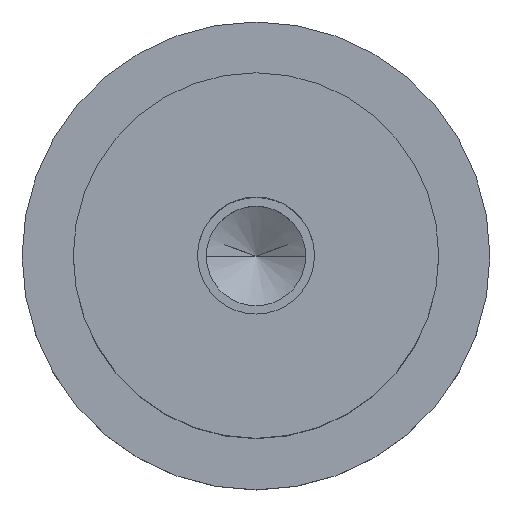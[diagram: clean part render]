
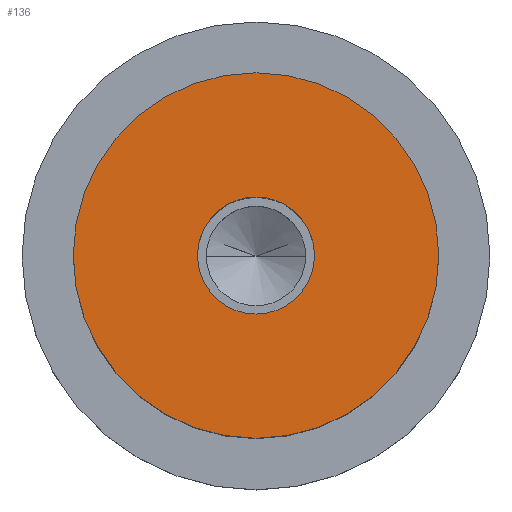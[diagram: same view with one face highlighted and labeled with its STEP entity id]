
A CAD part, top view. The second image highlights one B-rep face of the part: STEP entity #136.
In plain terms, the highlighted planar face has unit normal (0, 0, 1).
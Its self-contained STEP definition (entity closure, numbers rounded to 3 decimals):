
#100=PLANE('',#450);
#107=FACE_BOUND('',#182,.T.);
#108=FACE_BOUND('',#183,.T.);
#136=ADVANCED_FACE('',(#107,#108),#100,.T.);
#182=EDGE_LOOP('',(#259,#260));
#183=EDGE_LOOP('',(#261,#262));
#209=CIRCLE('',#444,4.);
#210=CIRCLE('',#446,4.);
#211=CIRCLE('',#448,12.5);
#212=CIRCLE('',#449,12.5);
#259=ORIENTED_EDGE('',*,*,#368,.F.);
#260=ORIENTED_EDGE('',*,*,#369,.F.);
#261=ORIENTED_EDGE('',*,*,#367,.T.);
#262=ORIENTED_EDGE('',*,*,#365,.T.);
#332=VERTEX_POINT('',#637);
#333=VERTEX_POINT('',#639);
#334=VERTEX_POINT('',#645);
#335=VERTEX_POINT('',#646);
#365=EDGE_CURVE('',#333,#332,#209,.T.);
#367=EDGE_CURVE('',#332,#333,#210,.T.);
#368=EDGE_CURVE('',#334,#335,#211,.T.);
#369=EDGE_CURVE('',#335,#334,#212,.T.);
#444=AXIS2_PLACEMENT_3D('',#638,#516,#517);
#446=AXIS2_PLACEMENT_3D('',#642,#521,#522);
#448=AXIS2_PLACEMENT_3D('',#644,#525,#526);
#449=AXIS2_PLACEMENT_3D('',#647,#527,#528);
#450=AXIS2_PLACEMENT_3D('',#648,#529,#530);
#516=DIRECTION('',(0.,0.,-1.));
#517=DIRECTION('',(0.,1.,0.));
#521=DIRECTION('',(0.,0.,-1.));
#522=DIRECTION('',(0.,-1.,0.));
#525=DIRECTION('',(0.,0.,-1.));
#526=DIRECTION('',(0.,1.,0.));
#527=DIRECTION('',(0.,0.,-1.));
#528=DIRECTION('',(0.,-1.,0.));
#529=DIRECTION('',(0.,0.,1.));
#530=DIRECTION('',(0.,-1.,0.));
#637=CARTESIAN_POINT('',(-4.,0.,16.));
#638=CARTESIAN_POINT('',(0.,0.,16.));
#639=CARTESIAN_POINT('',(4.,0.,16.));
#642=CARTESIAN_POINT('',(0.,0.,16.));
#644=CARTESIAN_POINT('',(0.,0.,16.));
#645=CARTESIAN_POINT('',(12.5,0.,16.));
#646=CARTESIAN_POINT('',(-12.5,0.,16.));
#647=CARTESIAN_POINT('',(0.,0.,16.));
#648=CARTESIAN_POINT('',(0.,0.,16.));
